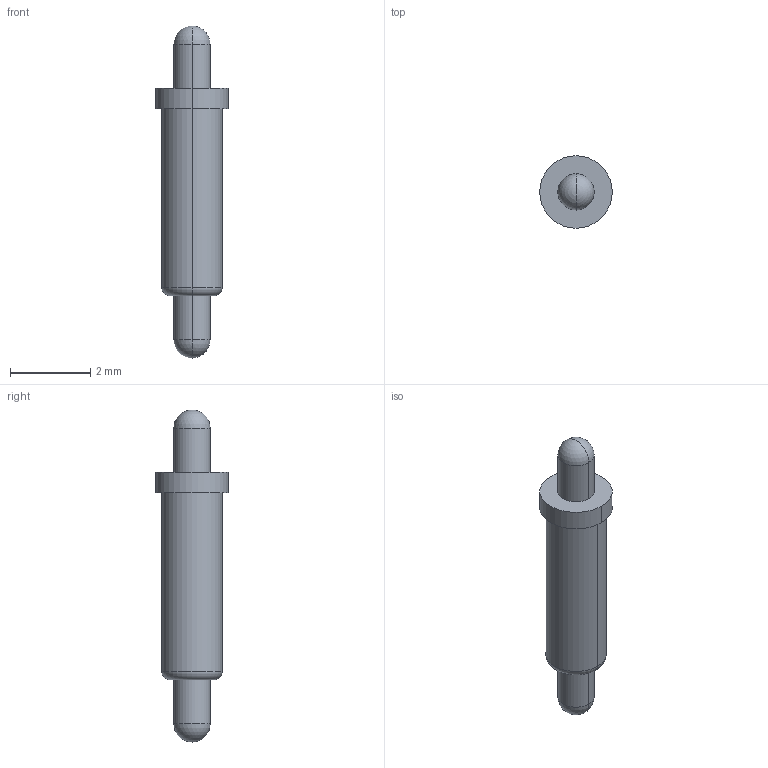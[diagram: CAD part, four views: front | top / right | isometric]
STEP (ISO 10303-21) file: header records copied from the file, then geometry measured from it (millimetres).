
FILE_DESCRIPTION((''),'2;1');
FILE_NAME('PRT0025','2023-05-26T11:39:28',('USER'),(''),'CREO PARAMETRIC BY PTC INC, 2020154','CREO PARAMETRIC BY PTC INC, 2020154','');
FILE_SCHEMA(('CONFIG_CONTROL_DESIGN'));
Length unit declared in the file: millimetre
Products named in the file (1): PRT0025
Bounding box: 1.8 x 1.8 x 8.25 mm (x, y, z)
Volume: 11.2 mm3; surface area: 36.9 mm2
Topology: 1 solids, 1 shells, 17 faces, 36 edges, 20 vertices
Faces by surface type: cylinder 8, sphere 4, plane 3, torus 2
Entity records: 476 total; most frequent: DIRECTION 90, CARTESIAN_POINT 69, ORIENTED_EDGE 64, AXIS2_PLACEMENT_3D 41, EDGE_CURVE 32, CIRCLE 24, VERTEX_POINT 20, EDGE_LOOP 20
